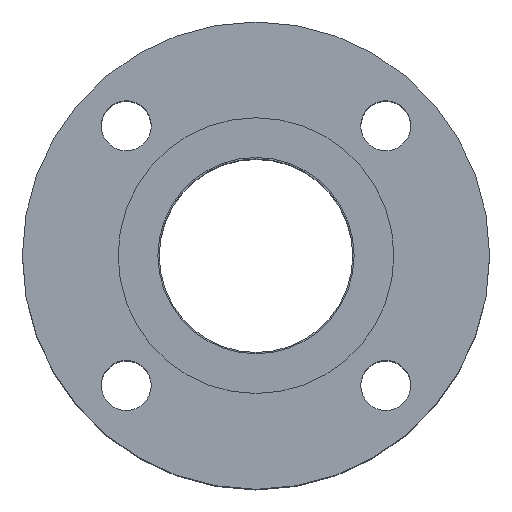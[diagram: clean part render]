
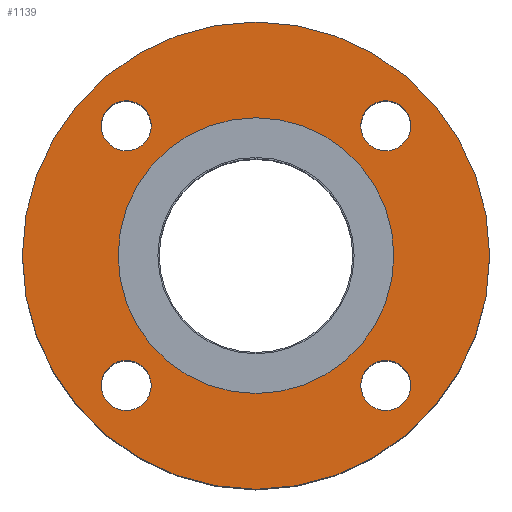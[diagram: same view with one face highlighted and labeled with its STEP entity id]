
A CAD part, top view. The second image highlights one B-rep face of the part: STEP entity #1139.
In plain terms, the highlighted planar face has unit normal (0, 0, 1).
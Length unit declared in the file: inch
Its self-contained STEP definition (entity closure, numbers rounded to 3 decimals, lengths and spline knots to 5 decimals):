
#80=FACE_BOUND('',#311,.T.);
#81=FACE_BOUND('',#312,.T.);
#82=FACE_BOUND('',#313,.T.);
#83=FACE_BOUND('',#314,.T.);
#84=FACE_BOUND('',#315,.T.);
#126=PLANE('',#1300);
#213=FACE_OUTER_BOUND('',#310,.T.);
#310=EDGE_LOOP('',(#877));
#311=EDGE_LOOP('',(#878));
#312=EDGE_LOOP('',(#879));
#313=EDGE_LOOP('',(#880));
#314=EDGE_LOOP('',(#881));
#315=EDGE_LOOP('',(#882));
#455=CIRCLE('',#1267,0.375);
#457=CIRCLE('',#1270,0.375);
#459=CIRCLE('',#1273,0.375);
#461=CIRCLE('',#1276,0.375);
#474=CIRCLE('',#1295,2.065);
#476=CIRCLE('',#1299,3.5);
#587=VERTEX_POINT('',#2002);
#589=VERTEX_POINT('',#2008);
#591=VERTEX_POINT('',#2014);
#593=VERTEX_POINT('',#2020);
#604=VERTEX_POINT('',#2052);
#606=VERTEX_POINT('',#2059);
#683=EDGE_CURVE('',#587,#587,#455,.T.);
#686=EDGE_CURVE('',#589,#589,#457,.T.);
#689=EDGE_CURVE('',#591,#591,#459,.T.);
#692=EDGE_CURVE('',#593,#593,#461,.T.);
#708=EDGE_CURVE('',#604,#604,#474,.T.);
#710=EDGE_CURVE('',#606,#606,#476,.T.);
#877=ORIENTED_EDGE('',*,*,#710,.T.);
#878=ORIENTED_EDGE('',*,*,#683,.T.);
#879=ORIENTED_EDGE('',*,*,#686,.T.);
#880=ORIENTED_EDGE('',*,*,#689,.T.);
#881=ORIENTED_EDGE('',*,*,#692,.T.);
#882=ORIENTED_EDGE('',*,*,#708,.T.);
#1139=ADVANCED_FACE('',(#213,#80,#81,#82,#83,#84),#126,.T.);
#1267=AXIS2_PLACEMENT_3D('',#2003,#1511,#1512);
#1270=AXIS2_PLACEMENT_3D('',#2009,#1518,#1519);
#1273=AXIS2_PLACEMENT_3D('',#2015,#1525,#1526);
#1276=AXIS2_PLACEMENT_3D('',#2021,#1532,#1533);
#1295=AXIS2_PLACEMENT_3D('',#2054,#1573,#1574);
#1299=AXIS2_PLACEMENT_3D('',#2060,#1581,#1582);
#1300=AXIS2_PLACEMENT_3D('',#2062,#1584,#1585);
#1511=DIRECTION('center_axis',(0.,0.,-1.));
#1512=DIRECTION('ref_axis',(0.,-1.,0.));
#1518=DIRECTION('center_axis',(0.,0.,-1.));
#1519=DIRECTION('ref_axis',(-1.,0.,0.));
#1525=DIRECTION('center_axis',(0.,0.,-1.));
#1526=DIRECTION('ref_axis',(0.,1.,0.));
#1532=DIRECTION('center_axis',(0.,0.,-1.));
#1533=DIRECTION('ref_axis',(1.,0.,0.));
#1573=DIRECTION('center_axis',(0.,0.,-1.));
#1574=DIRECTION('ref_axis',(0.,1.,0.));
#1581=DIRECTION('center_axis',(0.,0.,1.));
#1582=DIRECTION('ref_axis',(1.,0.,0.));
#1584=DIRECTION('center_axis',(0.,0.,1.));
#1585=DIRECTION('ref_axis',(1.,0.,0.));
#2002=CARTESIAN_POINT('',(1.94454,2.31954,0.405));
#2003=CARTESIAN_POINT('Origin',(1.94454,1.94454,0.405));
#2008=CARTESIAN_POINT('',(2.31954,-1.94454,0.405));
#2009=CARTESIAN_POINT('Origin',(1.94454,-1.94454,0.405));
#2014=CARTESIAN_POINT('',(-1.94454,-2.31954,0.405));
#2015=CARTESIAN_POINT('Origin',(-1.94454,-1.94454,0.405));
#2020=CARTESIAN_POINT('',(-2.31954,1.94454,0.405));
#2021=CARTESIAN_POINT('Origin',(-1.94454,1.94454,0.405));
#2052=CARTESIAN_POINT('',(0.,-2.065,0.405));
#2054=CARTESIAN_POINT('Origin',(0.,0.,0.405));
#2059=CARTESIAN_POINT('',(0.,-3.5,0.405));
#2060=CARTESIAN_POINT('Origin',(0.,0.,0.405));
#2062=CARTESIAN_POINT('Origin',(0.,1.47,0.405));
